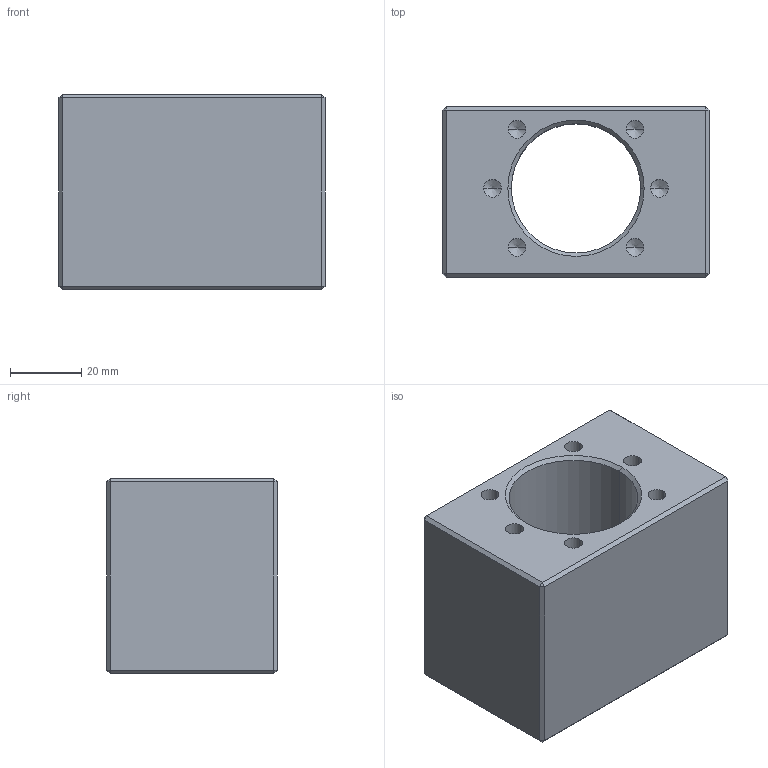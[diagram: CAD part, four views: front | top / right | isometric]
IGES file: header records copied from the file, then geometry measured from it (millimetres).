
Start section: SolidWorks IGES file using analytic representation for surfaces
Bounding box: 75 x 48 x 55 mm (x, y, z)
Volume: 135350.5 mm3; surface area: 27647.6 mm2
Topology: 1 solids, 1 shells, 72 faces, 162 edges, 82 vertices
Faces by surface type: revolution 46, plane 26
